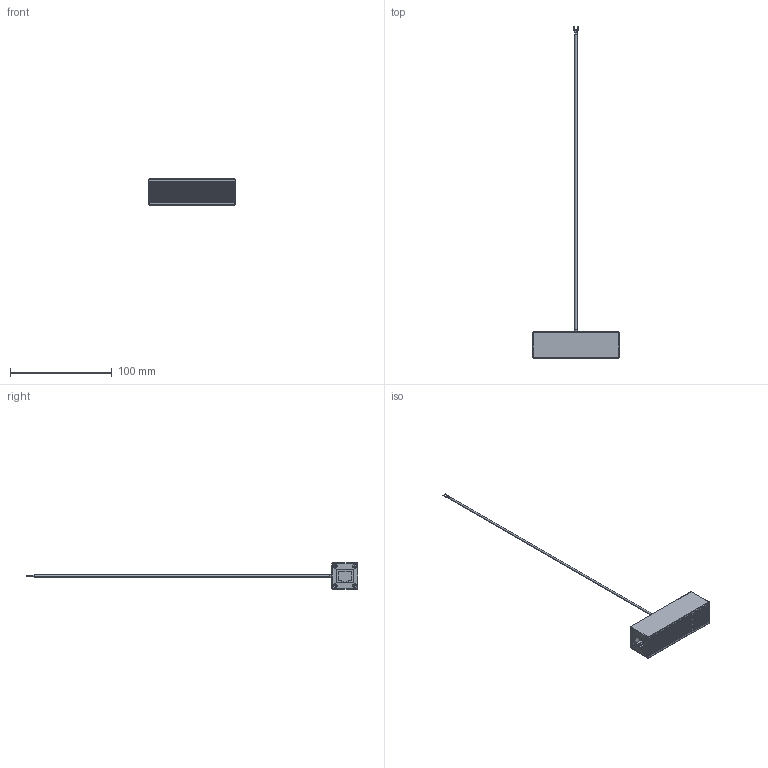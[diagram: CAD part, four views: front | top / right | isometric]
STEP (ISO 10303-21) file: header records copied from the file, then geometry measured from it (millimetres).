
FILE_DESCRIPTION(('TFLEX Exchange Step'),'2;1');
FILE_NAME('X2\042304170418041F\X0\ РИФ-И 48_0,5_10 (8) - кат6 (Б).stp', '2022-08-11T15:49:53+03:00',('Ivan Berdigulov'),('Unknown organisation'),'TFLEX Exchange 2019.2','T-FLEX CAD','Unknown authorisation');
FILE_SCHEMA( ('AUTOMOTIVE_DESIGN { 1 0 10303 214 1 1 1 1 }') );
Length unit declared in the file: millimetre
Products named in the file (8): 3D Узел_1; 3D Узел_2; 3D Узел_3; 3D Узел_4; 3D Узел_5; 0; РИФ-И 25,5х85; УЗИП РИФ-И 48_0,5_10 (8) - кат6 (Б)
Assembly tree (7 placements, depth 3):
  УЗИП РИФ-И 48_0,5_10 (8) - кат6 (Б)
    0
      3D Узел_1
      3D Узел_2
      3D Узел_3
      3D Узел_4
      3D Узел_5
    РИФ-И 25,5х85
Bounding box: 85.4 x 325.5 x 25.5 mm (x, y, z)
Volume: 52449.1 mm3; surface area: 15813 mm2
Topology: 3 solids, 7 shells, 392 faces, 1027 edges, 609 vertices
Faces by surface type: plane 186, bspline 101, cylinder 58, cone 33, sphere 8, torus 6
Full cylindrical faces by diameter (mm): 1.8 x4
Entity records: 12952 total; most frequent: CARTESIAN_POINT 4115, ORIENTED_EDGE 1942, DIRECTION 1411, EDGE_CURVE 971, VERTEX_POINT 604, VECTOR 565, LINE 565, AXIS2_PLACEMENT_3D 423
